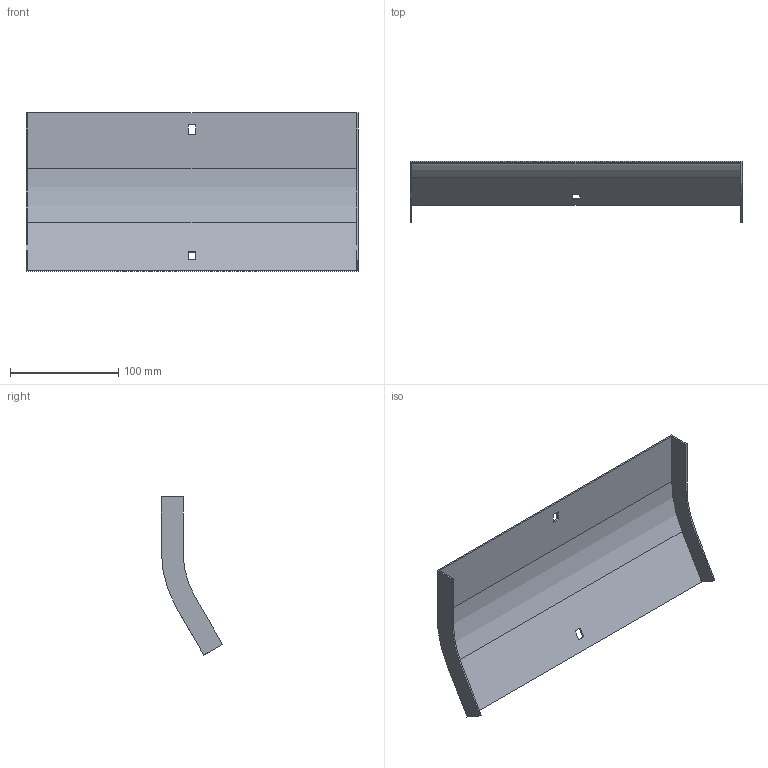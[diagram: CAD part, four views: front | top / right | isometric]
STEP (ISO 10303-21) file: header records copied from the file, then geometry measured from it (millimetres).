
FILE_DESCRIPTION (( 'STEP AP214' ), '1' );
FILE_NAME ('35G1C300.step', '2025-02-21T12:41:58', ( '' ), ( '' ), 'SwSTEP 2.0', 'SolidWorks 2023', '' );
FILE_SCHEMA (( 'AUTOMOTIVE_DESIGN' ));
Length unit declared in the file: millimetre
Products named in the file (1): 35G1C300
Bounding box: 307 x 56.52 x 146.29 mm (x, y, z)
Volume: 79592.6 mm3; surface area: 107684.9 mm2
Topology: 1 solids, 1 shells, 26 faces, 72 edges, 48 vertices
Faces by surface type: plane 22, cylinder 4
Entity records: 855 total; most frequent: CARTESIAN_POINT 147, ORIENTED_EDGE 144, DIRECTION 134, EDGE_CURVE 72, VECTOR 64, LINE 64, VERTEX_POINT 48, AXIS2_PLACEMENT_3D 35
